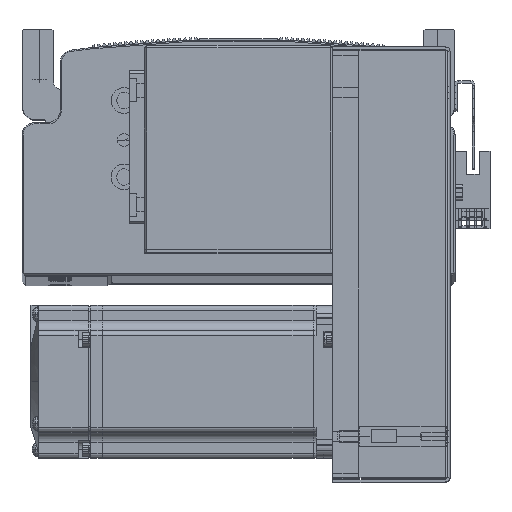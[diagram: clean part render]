
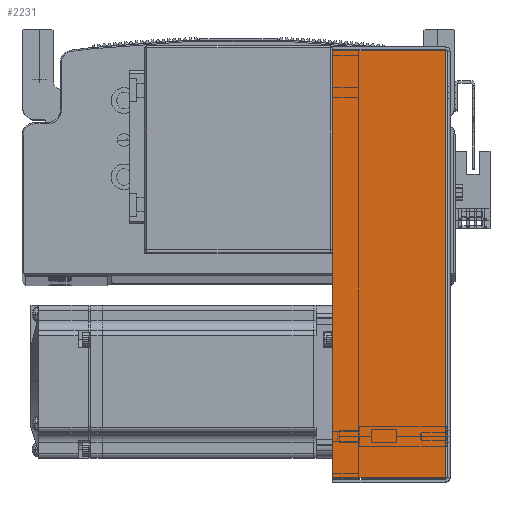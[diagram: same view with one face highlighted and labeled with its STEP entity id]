
A CAD part, top view. The second image highlights one B-rep face of the part: STEP entity #2231.
In plain terms, the highlighted planar face has unit normal (0, 0, 1) as drawn and (0, 0, -1) by its records, which use the part's own axes.
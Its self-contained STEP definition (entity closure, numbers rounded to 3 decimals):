
#2231 = ADVANCED_FACE ( 'NONE', ( #51613 ), #49057, .F. ) ;
#8288 = EDGE_LOOP ( 'NONE', ( #55556, #55522, #55523, #55548 ) ) ;
#26263 = VERTEX_POINT ( 'NONE', #76021 ) ;
#26284 = VERTEX_POINT ( 'NONE', #76077 ) ;
#26302 = VERTEX_POINT ( 'NONE', #76115 ) ;
#26316 = VERTEX_POINT ( 'NONE', #76159 ) ;
#32033 = LINE ( 'NONE', #36204, #32034 ) ;
#32034 = VECTOR ( 'NONE', #36205, 1000. ) ;
#32164 = VECTOR ( 'NONE', #36401, 1000. ) ;
#32170 = VECTOR ( 'NONE', #36279, 1000. ) ;
#32184 = LINE ( 'NONE', #36300, #32170 ) ;
#32202 = LINE ( 'NONE', #36311, #32164 ) ;
#32252 = LINE ( 'NONE', #36440, #32294 ) ;
#32294 = VECTOR ( 'NONE', #36461, 1000. ) ;
#36204 = CARTESIAN_POINT ( 'NONE',  ( 84.5, 45., -40.5 ) ) ;
#36205 = DIRECTION ( 'NONE',  ( 1., 0., 0. ) ) ;
#36279 = DIRECTION ( 'NONE',  ( 1., 0., 0. ) ) ;
#36300 = CARTESIAN_POINT ( 'NONE',  ( 0., 0.737, -40.5 ) ) ;
#36311 = CARTESIAN_POINT ( 'NONE',  ( -83.793, 0., -40.5 ) ) ;
#36401 = DIRECTION ( 'NONE',  ( 0., 1., 0. ) ) ;
#36440 = CARTESIAN_POINT ( 'NONE',  ( 83.793, 0., -40.5 ) ) ;
#36461 = DIRECTION ( 'NONE',  ( 0., 1., 0. ) ) ;
#43687 = AXIS2_PLACEMENT_3D ( 'NONE', #49039, #49050, #49056 ) ;
#49039 = CARTESIAN_POINT ( 'NONE',  ( 0., 0., -40.5 ) ) ;
#49050 = DIRECTION ( 'NONE',  ( 0., 0., 1. ) ) ;
#49056 = DIRECTION ( 'NONE',  ( 0., -1., 0. ) ) ;
#49057 = PLANE ( 'NONE',  #43687 ) ;
#51613 = FACE_OUTER_BOUND ( 'NONE', #8288, .T. ) ;
#54203 = EDGE_CURVE ( 'NONE', #26316, #26284, #32033, .T. ) ;
#54239 = EDGE_CURVE ( 'NONE', #26263, #26302, #32184, .T. ) ;
#54271 = EDGE_CURVE ( 'NONE', #26263, #26316, #32202, .T. ) ;
#54322 = EDGE_CURVE ( 'NONE', #26302, #26284, #32252, .T. ) ;
#55522 = ORIENTED_EDGE ( 'NONE', *, *, #54271, .T. ) ;
#55523 = ORIENTED_EDGE ( 'NONE', *, *, #54203, .T. ) ;
#55548 = ORIENTED_EDGE ( 'NONE', *, *, #54322, .F. ) ;
#55556 = ORIENTED_EDGE ( 'NONE', *, *, #54239, .F. ) ;
#76021 = CARTESIAN_POINT ( 'NONE',  ( -83.793, 0.737, -40.5 ) ) ;
#76077 = CARTESIAN_POINT ( 'NONE',  ( 83.793, 45., -40.5 ) ) ;
#76115 = CARTESIAN_POINT ( 'NONE',  ( 83.793, 0.737, -40.5 ) ) ;
#76159 = CARTESIAN_POINT ( 'NONE',  ( -83.793, 45., -40.5 ) ) ;
